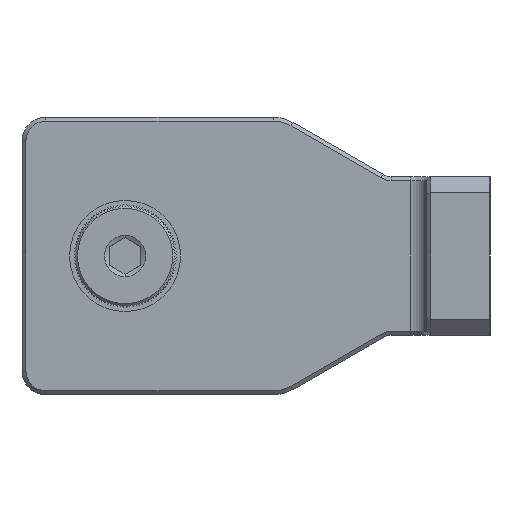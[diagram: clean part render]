
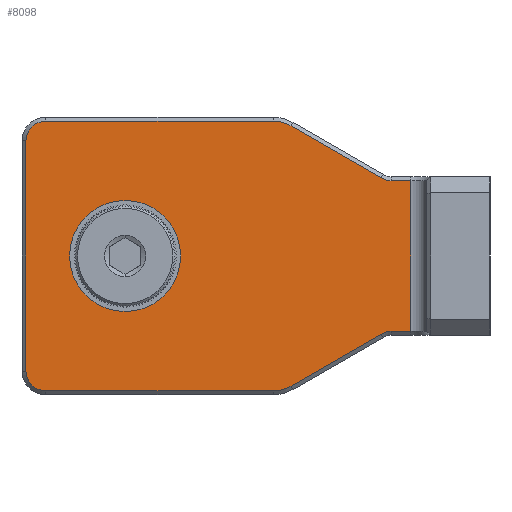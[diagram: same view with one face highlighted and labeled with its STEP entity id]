
A CAD part, left-side view. The second image highlights one B-rep face of the part: STEP entity #8098.
In plain terms, the highlighted planar face has unit normal (-1, 0, 0).
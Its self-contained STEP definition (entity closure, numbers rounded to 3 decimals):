
#1052=DIRECTION('',(0.,-1.,0.));
#1053=VECTOR('',#1052,28.67);
#1054=CARTESIAN_POINT('',(-27.653,31.054,92.));
#1055=LINE('',#1054,#1053);
#1073=DIRECTION('',(0.,0.,1.));
#1074=VECTOR('',#1073,29.);
#1075=CARTESIAN_POINT('',(-27.653,33.554,60.5));
#1076=LINE('',#1075,#1074);
#1094=DIRECTION('',(0.,1.,0.));
#1095=VECTOR('',#1094,28.67);
#1096=CARTESIAN_POINT('',(-27.653,2.384,58.));
#1097=LINE('',#1096,#1095);
#1132=DIRECTION('',(0.,1.,0.));
#1133=VECTOR('',#1132,2.464);
#1134=CARTESIAN_POINT('',(-27.653,-14.946,65.5));
#1135=LINE('',#1134,#1133);
#1240=DIRECTION('',(0.,-1.,0.));
#1241=VECTOR('',#1240,2.464);
#1242=CARTESIAN_POINT('',(-27.653,-12.482,84.5));
#1243=LINE('',#1242,#1241);
#1244=CARTESIAN_POINT('',(-27.653,-12.482,63.));
#1245=DIRECTION('',(1.,0.,0.));
#1246=DIRECTION('',(0.,0.5,0.866));
#1247=AXIS2_PLACEMENT_3D('',#1244,#1245,#1246);
#1249=DIRECTION('',(0.,-0.866,0.5));
#1250=VECTOR('',#1249,13.124);
#1251=CARTESIAN_POINT('',(-27.653,0.134,
58.603));
#1252=LINE('',#1251,#1250);
#1253=CARTESIAN_POINT('',(-27.653,2.384,62.5));
#1254=DIRECTION('',(-1.,0.,0.));
#1255=DIRECTION('',(0.,0.,-1.));
#1256=AXIS2_PLACEMENT_3D('',#1253,#1254,#1255);
#1258=CARTESIAN_POINT('',(-27.653,31.054,60.5));
#1259=DIRECTION('',(-1.,0.,0.));
#1260=DIRECTION('',(0.,1.,0.));
#1261=AXIS2_PLACEMENT_3D('',#1258,#1259,#1260);
#1263=CARTESIAN_POINT('',(-27.653,31.054,89.5));
#1264=DIRECTION('',(-1.,0.,0.));
#1265=DIRECTION('',(0.,0.,1.));
#1266=AXIS2_PLACEMENT_3D('',#1263,#1264,#1265);
#1268=CARTESIAN_POINT('',(-27.653,2.384,87.5));
#1269=DIRECTION('',(-1.,0.,0.));
#1270=DIRECTION('',(0.,-0.5,0.866));
#1271=AXIS2_PLACEMENT_3D('',#1268,#1269,#1270);
#1273=DIRECTION('',(0.,0.866,0.5));
#1274=VECTOR('',#1273,13.124);
#1275=CARTESIAN_POINT('',(-27.653,-11.232,
84.835));
#1276=LINE('',#1275,#1274);
#1277=CARTESIAN_POINT('',(-27.653,-12.482,87.));
#1278=DIRECTION('',(1.,0.,0.));
#1279=DIRECTION('',(0.,0.,-1.));
#1280=AXIS2_PLACEMENT_3D('',#1277,#1278,#1279);
#1282=CARTESIAN_POINT('',(-27.653,21.054,75.));
#1283=DIRECTION('',(1.,0.,0.));
#1284=DIRECTION('',(0.,0.,-1.));
#1285=AXIS2_PLACEMENT_3D('',#1282,#1283,#1284);
#1287=CARTESIAN_POINT('',(-27.653,21.054,75.));
#1288=DIRECTION('',(1.,0.,0.));
#1289=DIRECTION('',(0.,0.,1.));
#1290=AXIS2_PLACEMENT_3D('',#1287,#1288,#1289);
#1296=DIRECTION('',(0.,0.,-1.));
#1297=VECTOR('',#1296,19.);
#1298=CARTESIAN_POINT('',(-27.653,-14.946,84.5));
#1299=LINE('',#1298,#1297);
#4816=CARTESIAN_POINT('',(-27.653,-14.946,65.5));
#4818=VERTEX_POINT('',#4816);
#4881=CARTESIAN_POINT('',(-27.653,2.384,58.));
#4883=VERTEX_POINT('',#4881);
#4915=CARTESIAN_POINT('',(-27.653,-11.232,
65.165));
#4916=VERTEX_POINT('',#4915);
#4993=CARTESIAN_POINT('',(-27.653,33.554,60.5));
#4994=VERTEX_POINT('',#4993);
#5005=CARTESIAN_POINT('',(-27.653,-12.482,84.5));
#5006=CARTESIAN_POINT('',(-27.653,-11.232,
84.835));
#5007=VERTEX_POINT('',#5005);
#5008=VERTEX_POINT('',#5006);
#5015=CARTESIAN_POINT('',(-27.653,-12.482,65.5));
#5016=VERTEX_POINT('',#5015);
#5019=CARTESIAN_POINT('',(-27.653,0.134,
91.397));
#5020=VERTEX_POINT('',#5019);
#5021=CARTESIAN_POINT('',(-27.653,31.054,92.));
#5022=CARTESIAN_POINT('',(-27.653,2.384,92.));
#5023=VERTEX_POINT('',#5021);
#5024=VERTEX_POINT('',#5022);
#5029=CARTESIAN_POINT('',(-27.653,-14.946,84.5));
#5030=VERTEX_POINT('',#5029);
#5031=CARTESIAN_POINT('',(-27.653,31.054,58.));
#5032=VERTEX_POINT('',#5031);
#5033=CARTESIAN_POINT('',(-27.653,0.134,
58.603));
#5034=VERTEX_POINT('',#5033);
#5055=CARTESIAN_POINT('',(-27.653,21.054,82.));
#5056=CARTESIAN_POINT('',(-27.653,21.054,68.));
#5057=VERTEX_POINT('',#5055);
#5058=VERTEX_POINT('',#5056);
#5063=CARTESIAN_POINT('',(-27.653,33.554,89.5));
#5064=VERTEX_POINT('',#5063);
#8070=CARTESIAN_POINT('',(-27.653,34.054,57.5));
#8071=DIRECTION('',(1.,0.,0.));
#8072=DIRECTION('',(0.,0.,-1.));
#8073=AXIS2_PLACEMENT_3D('',#8070,#8071,#8072);
#8074=PLANE('',#8073);
#8076=ORIENTED_EDGE('',*,*,#8075,.T.);
#8077=ORIENTED_EDGE('',*,*,#7845,.T.);
#8078=ORIENTED_EDGE('',*,*,#7824,.F.);
#8079=ORIENTED_EDGE('',*,*,#7803,.F.);
#8080=ORIENTED_EDGE('',*,*,#7782,.F.);
#8081=ORIENTED_EDGE('',*,*,#7761,.T.);
#8082=ORIENTED_EDGE('',*,*,#7740,.F.);
#8083=ORIENTED_EDGE('',*,*,#7718,.T.);
#8084=ORIENTED_EDGE('',*,*,#7696,.F.);
#8085=ORIENTED_EDGE('',*,*,#7674,.T.);
#8086=ORIENTED_EDGE('',*,*,#7653,.F.);
#8087=ORIENTED_EDGE('',*,*,#7632,.F.);
#8088=ORIENTED_EDGE('',*,*,#7611,.F.);
#8089=ORIENTED_EDGE('',*,*,#8058,.T.);
#8090=EDGE_LOOP('',(#8076,#8077,#8078,#8079,#8080,#8081,#8082,#8083,#8084,#8085,
#8086,#8087,#8088,#8089));
#8091=FACE_OUTER_BOUND('',#8090,.F.);
#8093=ORIENTED_EDGE('',*,*,#8092,.F.);
#8095=ORIENTED_EDGE('',*,*,#8094,.F.);
#8096=EDGE_LOOP('',(#8093,#8095));
#8097=FACE_BOUND('',#8096,.F.);
#1248=CIRCLE('',#1247,2.5);
#1257=CIRCLE('',#1256,4.5);
#1262=CIRCLE('',#1261,2.5);
#1267=CIRCLE('',#1266,2.5);
#1272=CIRCLE('',#1271,4.5);
#1281=CIRCLE('',#1280,2.5);
#1286=CIRCLE('',#1285,7.);
#1291=CIRCLE('',#1290,7.);
#7611=EDGE_CURVE('',#5007,#5008,#1281,.T.);
#7632=EDGE_CURVE('',#5008,#5020,#1276,.T.);
#7653=EDGE_CURVE('',#5020,#5024,#1272,.T.);
#7674=EDGE_CURVE('',#5023,#5024,#1055,.T.);
#7696=EDGE_CURVE('',#5023,#5064,#1267,.T.);
#7718=EDGE_CURVE('',#4994,#5064,#1076,.T.);
#7740=EDGE_CURVE('',#4994,#5032,#1262,.T.);
#7761=EDGE_CURVE('',#4883,#5032,#1097,.T.);
#7782=EDGE_CURVE('',#4883,#5034,#1257,.T.);
#7803=EDGE_CURVE('',#5034,#4916,#1252,.T.);
#7824=EDGE_CURVE('',#4916,#5016,#1248,.T.);
#7845=EDGE_CURVE('',#4818,#5016,#1135,.T.);
#8058=EDGE_CURVE('',#5007,#5030,#1243,.T.);
#8075=EDGE_CURVE('',#5030,#4818,#1299,.T.);
#8092=EDGE_CURVE('',#5058,#5057,#1286,.T.);
#8094=EDGE_CURVE('',#5057,#5058,#1291,.T.);
#8098=ADVANCED_FACE('',(#8091,#8097),#8074,.F.);
